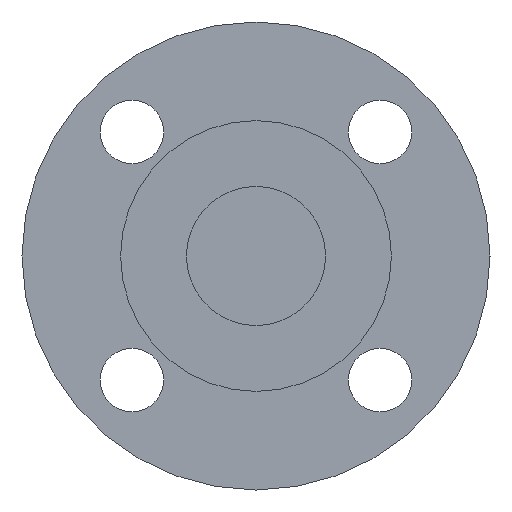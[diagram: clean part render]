
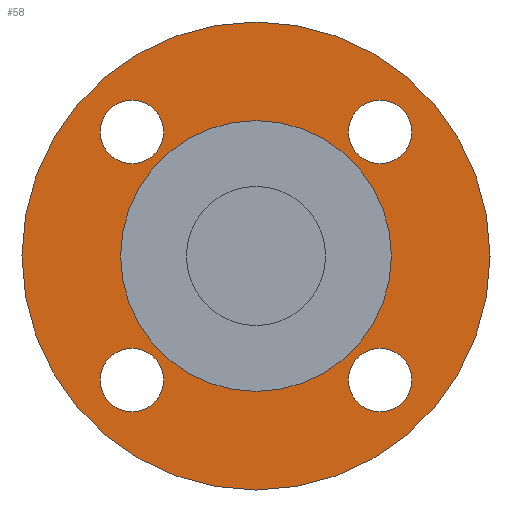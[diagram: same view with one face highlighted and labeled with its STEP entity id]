
A CAD part, left-side view. The second image highlights one B-rep face of the part: STEP entity #58.
In plain terms, the highlighted planar face has unit normal (-1, 0, 0).
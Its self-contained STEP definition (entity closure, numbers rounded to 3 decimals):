
#58=ADVANCED_FACE('',(#287,#288,#289,#290,#291,#292),#286,.T.);
#286=PLANE('',#825);
#287=FACE_OUTER_BOUND('',#826,.T.);
#288=FACE_BOUND('',#827,.T.);
#289=FACE_BOUND('',#828,.T.);
#290=FACE_BOUND('',#829,.T.);
#291=FACE_BOUND('',#830,.T.);
#292=FACE_BOUND('',#831,.T.);
#822=CARTESIAN_POINT('',(1.,-131.244,-150.));
#823=DIRECTION('',(-1.,0.,0.));
#824=DIRECTION('',(0.,0.,1.));
#825=AXIS2_PLACEMENT_3D('',#822,#823,#824);
#826=EDGE_LOOP('',(#1139,#1140));
#827=EDGE_LOOP('',(#1141,#1142));
#828=EDGE_LOOP('',(#1143,#1144));
#829=EDGE_LOOP('',(#1145,#1146));
#830=EDGE_LOOP('',(#1147,#1148));
#831=EDGE_LOOP('',(#1149,#1150));
#1139=ORIENTED_EDGE('',*,*,#1403,.T.);
#1140=ORIENTED_EDGE('',*,*,#1404,.T.);
#1141=ORIENTED_EDGE('',*,*,#1405,.F.);
#1142=ORIENTED_EDGE('',*,*,#1406,.F.);
#1143=ORIENTED_EDGE('',*,*,#1407,.F.);
#1144=ORIENTED_EDGE('',*,*,#1408,.F.);
#1145=ORIENTED_EDGE('',*,*,#1409,.F.);
#1146=ORIENTED_EDGE('',*,*,#1410,.F.);
#1147=ORIENTED_EDGE('',*,*,#1411,.F.);
#1148=ORIENTED_EDGE('',*,*,#1412,.F.);
#1149=ORIENTED_EDGE('',*,*,#1413,.F.);
#1150=ORIENTED_EDGE('',*,*,#1414,.F.);
#1403=EDGE_CURVE('',#1889,#1890,#1891,.T.);
#1404=EDGE_CURVE('',#1890,#1889,#1897,.T.);
#1405=EDGE_CURVE('',#1903,#1904,#1905,.T.);
#1406=EDGE_CURVE('',#1904,#1903,#1911,.T.);
#1407=EDGE_CURVE('',#1917,#1918,#1919,.T.);
#1408=EDGE_CURVE('',#1918,#1917,#1925,.T.);
#1409=EDGE_CURVE('',#1931,#1932,#1933,.T.);
#1410=EDGE_CURVE('',#1932,#1931,#1939,.T.);
#1411=EDGE_CURVE('',#1945,#1946,#1947,.T.);
#1412=EDGE_CURVE('',#1946,#1945,#1953,.T.);
#1413=EDGE_CURVE('',#1959,#1960,#1961,.T.);
#1414=EDGE_CURVE('',#1960,#1959,#1967,.T.);
#1889=VERTEX_POINT('',#2709);
#1890=VERTEX_POINT('',#2710);
#1891=CIRCLE('',#2714,70.);
#1897=CIRCLE('',#2718,70.);
#1903=VERTEX_POINT('',#2719);
#1904=VERTEX_POINT('',#2720);
#1905=CIRCLE('',#2724,9.5);
#1911=CIRCLE('',#2728,9.5);
#1917=VERTEX_POINT('',#2729);
#1918=VERTEX_POINT('',#2730);
#1919=CIRCLE('',#2734,9.5);
#1925=CIRCLE('',#2738,9.5);
#1931=VERTEX_POINT('',#2739);
#1932=VERTEX_POINT('',#2740);
#1933=CIRCLE('',#2744,9.5);
#1939=CIRCLE('',#2748,9.5);
#1945=VERTEX_POINT('',#2749);
#1946=VERTEX_POINT('',#2750);
#1947=CIRCLE('',#2754,40.5);
#1953=CIRCLE('',#2758,40.5);
#1959=VERTEX_POINT('',#2759);
#1960=VERTEX_POINT('',#2760);
#1961=CIRCLE('',#2764,9.5);
#1967=CIRCLE('',#2768,9.5);
#2709=CARTESIAN_POINT('',(1.,0.,70.));
#2710=CARTESIAN_POINT('',(1.,0.,-70.));
#2711=CARTESIAN_POINT('',(1.,0.,0.));
#2712=DIRECTION('',(-1.,0.,0.));
#2713=DIRECTION('',(0.,0.,1.));
#2714=AXIS2_PLACEMENT_3D('',#2711,#2712,#2713);
#2715=CARTESIAN_POINT('',(1.,0.,0.));
#2716=DIRECTION('',(-1.,0.,0.));
#2717=DIRECTION('',(0.,0.,1.));
#2718=AXIS2_PLACEMENT_3D('',#2715,#2716,#2717);
#2719=CARTESIAN_POINT('',(1.,37.123,46.623));
#2720=CARTESIAN_POINT('',(1.,37.123,27.623));
#2721=CARTESIAN_POINT('',(1.,37.123,37.123));
#2722=DIRECTION('',(-1.,0.,0.));
#2723=DIRECTION('',(0.,0.,-1.));
#2724=AXIS2_PLACEMENT_3D('',#2721,#2722,#2723);
#2725=CARTESIAN_POINT('',(1.,37.123,37.123));
#2726=DIRECTION('',(-1.,0.,0.));
#2727=DIRECTION('',(0.,0.,-1.));
#2728=AXIS2_PLACEMENT_3D('',#2725,#2726,#2727);
#2729=CARTESIAN_POINT('',(1.,37.123,-27.623));
#2730=CARTESIAN_POINT('',(1.,37.123,-46.623));
#2731=CARTESIAN_POINT('',(1.,37.123,-37.123));
#2732=DIRECTION('',(-1.,0.,0.));
#2733=DIRECTION('',(0.,0.,-1.));
#2734=AXIS2_PLACEMENT_3D('',#2731,#2732,#2733);
#2735=CARTESIAN_POINT('',(1.,37.123,-37.123));
#2736=DIRECTION('',(-1.,0.,0.));
#2737=DIRECTION('',(0.,0.,-1.));
#2738=AXIS2_PLACEMENT_3D('',#2735,#2736,#2737);
#2739=CARTESIAN_POINT('',(1.,-37.123,-27.623));
#2740=CARTESIAN_POINT('',(1.,-37.123,-46.623));
#2741=CARTESIAN_POINT('',(1.,-37.123,-37.123));
#2742=DIRECTION('',(-1.,0.,0.));
#2743=DIRECTION('',(0.,0.,-1.));
#2744=AXIS2_PLACEMENT_3D('',#2741,#2742,#2743);
#2745=CARTESIAN_POINT('',(1.,-37.123,-37.123));
#2746=DIRECTION('',(-1.,0.,0.));
#2747=DIRECTION('',(0.,0.,-1.));
#2748=AXIS2_PLACEMENT_3D('',#2745,#2746,#2747);
#2749=CARTESIAN_POINT('',(1.,0.,-40.5));
#2750=CARTESIAN_POINT('',(1.,0.,40.5));
#2751=CARTESIAN_POINT('',(1.,0.,0.));
#2752=DIRECTION('',(-1.,0.,0.));
#2753=DIRECTION('',(0.,0.,1.));
#2754=AXIS2_PLACEMENT_3D('',#2751,#2752,#2753);
#2755=CARTESIAN_POINT('',(1.,0.,0.));
#2756=DIRECTION('',(-1.,0.,0.));
#2757=DIRECTION('',(0.,0.,1.));
#2758=AXIS2_PLACEMENT_3D('',#2755,#2756,#2757);
#2759=CARTESIAN_POINT('',(1.,-37.123,46.623));
#2760=CARTESIAN_POINT('',(1.,-37.123,27.623));
#2761=CARTESIAN_POINT('',(1.,-37.123,37.123));
#2762=DIRECTION('',(-1.,0.,0.));
#2763=DIRECTION('',(0.,0.,-1.));
#2764=AXIS2_PLACEMENT_3D('',#2761,#2762,#2763);
#2765=CARTESIAN_POINT('',(1.,-37.123,37.123));
#2766=DIRECTION('',(-1.,0.,0.));
#2767=DIRECTION('',(0.,0.,-1.));
#2768=AXIS2_PLACEMENT_3D('',#2765,#2766,#2767);
